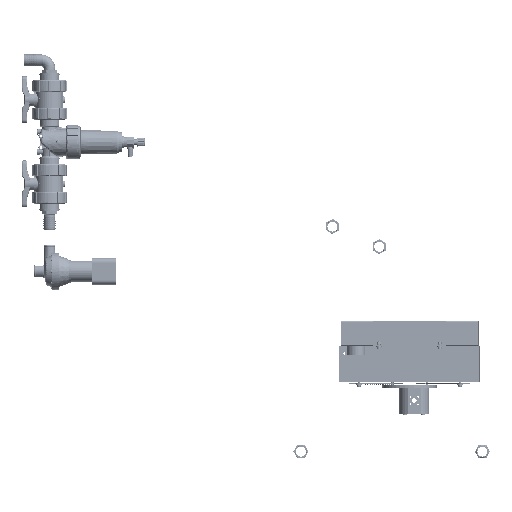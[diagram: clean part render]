
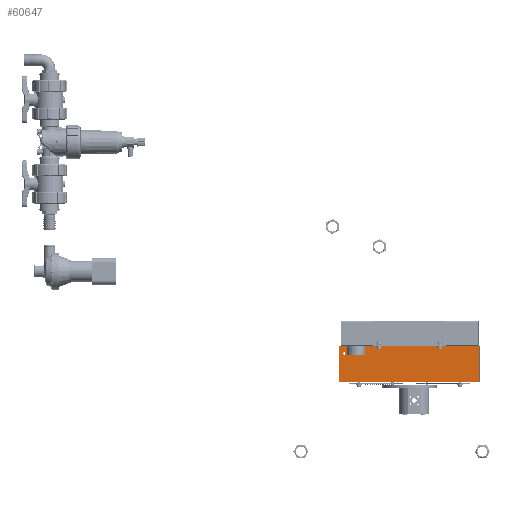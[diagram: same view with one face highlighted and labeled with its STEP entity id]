
A CAD part, front view. The second image highlights one B-rep face of the part: STEP entity #60647.
In plain terms, the highlighted planar face has unit normal (-0.002, -1, 0) as drawn and (1, 0, 0) by its records, which use the part's own axes.
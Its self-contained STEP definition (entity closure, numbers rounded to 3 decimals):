
#1185=FACE_BOUND('',#13014,.T.);
#4437=CIRCLE('',#65666,4.);
#9619=FACE_OUTER_BOUND('',#13013,.T.);
#13013=EDGE_LOOP('',(#54182,#54183,#54184,#54185,#54186,#54187,#54188,#54189));
#13014=EDGE_LOOP('',(#54190));
#18098=LINE('',#139415,#22978);
#18125=LINE('',#139473,#23005);
#18136=LINE('',#139495,#23016);
#18138=LINE('',#139503,#23018);
#18152=LINE('',#139535,#23032);
#18154=LINE('',#139537,#23034);
#18157=LINE('',#139551,#23037);
#18158=LINE('',#139552,#23038);
#22978=VECTOR('',#79418,1000.);
#23005=VECTOR('',#79465,1000.);
#23016=VECTOR('',#79484,1000.);
#23018=VECTOR('',#79492,1000.);
#23032=VECTOR('',#79516,1000.);
#23034=VECTOR('',#79518,1000.);
#23037=VECTOR('',#79531,1000.);
#23038=VECTOR('',#79532,1000.);
#30166=VERTEX_POINT('',#139399);
#30171=VERTEX_POINT('',#139412);
#30172=VERTEX_POINT('',#139414);
#30191=VERTEX_POINT('',#139467);
#30193=VERTEX_POINT('',#139471);
#30200=VERTEX_POINT('',#139493);
#30203=VERTEX_POINT('',#139501);
#30216=VERTEX_POINT('',#139534);
#30222=VERTEX_POINT('',#139550);
#38790=EDGE_CURVE('',#30166,#30166,#4437,.T.);
#38797=EDGE_CURVE('',#30172,#30171,#18098,.T.);
#38826=EDGE_CURVE('',#30191,#30193,#18125,.T.);
#38837=EDGE_CURVE('',#30193,#30200,#18136,.T.);
#38841=EDGE_CURVE('',#30200,#30203,#18138,.T.);
#38856=EDGE_CURVE('',#30191,#30216,#18152,.T.);
#38858=EDGE_CURVE('',#30172,#30203,#18154,.T.);
#38865=EDGE_CURVE('',#30171,#30222,#18157,.T.);
#38866=EDGE_CURVE('',#30216,#30222,#18158,.T.);
#54182=ORIENTED_EDGE('',*,*,#38856,.F.);
#54183=ORIENTED_EDGE('',*,*,#38826,.T.);
#54184=ORIENTED_EDGE('',*,*,#38837,.T.);
#54185=ORIENTED_EDGE('',*,*,#38841,.T.);
#54186=ORIENTED_EDGE('',*,*,#38858,.F.);
#54187=ORIENTED_EDGE('',*,*,#38797,.T.);
#54188=ORIENTED_EDGE('',*,*,#38865,.T.);
#54189=ORIENTED_EDGE('',*,*,#38866,.F.);
#54190=ORIENTED_EDGE('',*,*,#38790,.T.);
#57646=PLANE('',#65698);
#60647=ADVANCED_FACE('',(#9619,#1185),#57646,.F.);
#65666=AXIS2_PLACEMENT_3D('',#139400,#79403,#79404);
#65698=AXIS2_PLACEMENT_3D('',#139549,#79529,#79530);
#79403=DIRECTION('center_axis',(-1.,0.,0.));
#79404=DIRECTION('ref_axis',(0.,1.,0.));
#79418=DIRECTION('',(0.,0.,1.));
#79465=DIRECTION('',(0.,0.,1.));
#79484=DIRECTION('',(0.,1.,0.));
#79492=DIRECTION('',(0.,0.,-1.));
#79516=DIRECTION('',(0.,-1.,0.));
#79518=DIRECTION('',(0.,-1.,0.));
#79529=DIRECTION('center_axis',(-1.,0.,0.));
#79530=DIRECTION('ref_axis',(0.,1.,0.));
#79531=DIRECTION('',(0.,-1.,0.));
#79532=DIRECTION('',(0.,0.,1.));
#139399=CARTESIAN_POINT('',(211.5,215.,-39.));
#139400=CARTESIAN_POINT('Origin',(211.5,215.,-35.));
#139412=CARTESIAN_POINT('',(211.5,230.,60.));
#139414=CARTESIAN_POINT('',(211.5,230.,-60.));
#139415=CARTESIAN_POINT('',(211.5,230.,-60.));
#139467=CARTESIAN_POINT('',(211.5,-120.,-60.));
#139471=CARTESIAN_POINT('',(211.5,-120.,-58.));
#139473=CARTESIAN_POINT('',(211.5,-120.,-60.));
#139493=CARTESIAN_POINT('',(211.5,120.,-58.));
#139495=CARTESIAN_POINT('',(211.5,120.,-58.));
#139501=CARTESIAN_POINT('',(211.5,120.,-60.));
#139503=CARTESIAN_POINT('',(211.5,120.,-60.));
#139534=CARTESIAN_POINT('',(211.5,-230.,-60.));
#139535=CARTESIAN_POINT('',(211.5,230.,-60.));
#139537=CARTESIAN_POINT('',(211.5,230.,-60.));
#139549=CARTESIAN_POINT('Origin',(211.5,230.,-60.));
#139550=CARTESIAN_POINT('',(211.5,-230.,60.));
#139551=CARTESIAN_POINT('',(211.5,230.,60.));
#139552=CARTESIAN_POINT('',(211.5,-230.,-60.));
